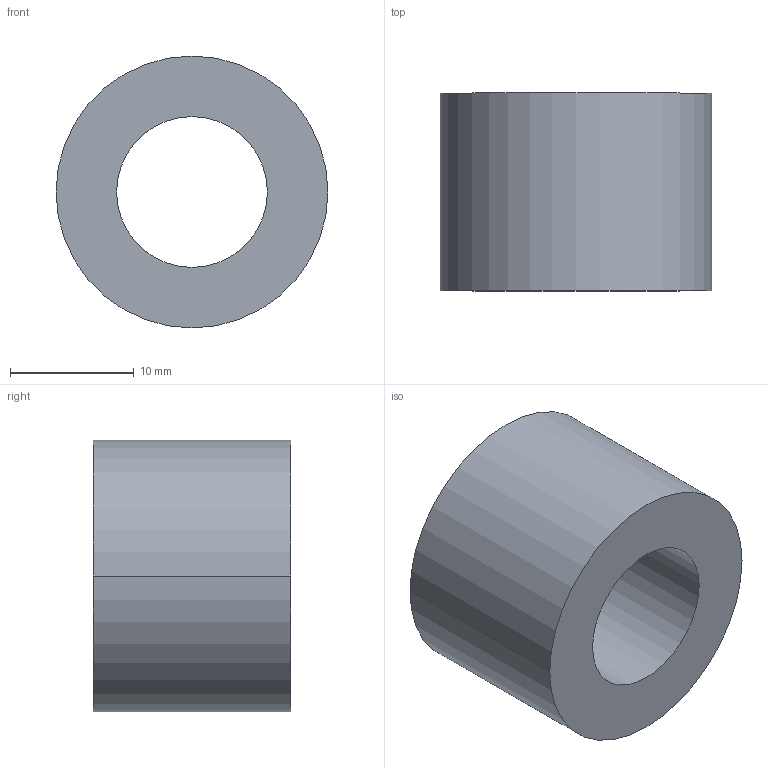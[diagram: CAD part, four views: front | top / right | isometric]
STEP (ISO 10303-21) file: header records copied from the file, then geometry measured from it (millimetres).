
FILE_DESCRIPTION (( 'STEP AP203' ), '1' );
FILE_NAME ('30800.WPP22F12.2.step', '2019-01-23T22:38:58', ( '' ), ( '' ), 'SwSTEP 2.0', 'SolidWorks 2017', '' );
FILE_SCHEMA (( 'CONFIG_CONTROL_DESIGN' ));
Length unit declared in the file: millimetre
Products named in the file (1): 30800.WPP22F12.2
Bounding box: 22 x 16 x 22 mm (x, y, z)
Volume: 4176.4 mm3; surface area: 2214.4 mm2
Topology: 1 solids, 1 shells, 8 faces, 16 edges, 10 vertices
Faces by surface type: cylinder 4, torus 2, plane 2
Entity records: 297 total; most frequent: DIRECTION 46, CARTESIAN_POINT 35, ORIENTED_EDGE 32, AXIS2_PLACEMENT_3D 21, EDGE_CURVE 16, CIRCLE 12, VERTEX_POINT 10, EDGE_LOOP 10
